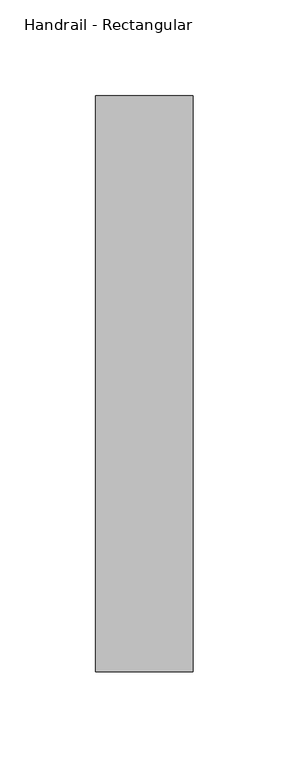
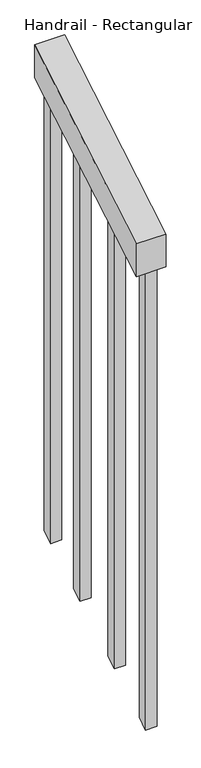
"""IFC4 building model written with IfcOpenShell, lengths in millimetres: railing geometry, Handrail - Rectangular."""

import ifcopenshell
import ifcopenshell.guid

model = None  # the IFC model being written
_history = None  # IfcOwnerHistory: only IFC2X3 demands one
_inside = {}  # id of a spatial element -> (the spatial element, [elements in it])
_under = {}  # id of a project, library or spatial element -> (it, [spatial elements below it])
_declared = {}  # id of a project -> (the project, [libraries it declares])
_typed = {}  # id of a type object -> (the type object, [elements of that type])
_made_of = {}  # id of a material, layer set ... -> (it, [elements and type objects made of it])


def new_model(schema):
    """Start an empty IFC model of exactly this schema.

    Asked for "IFC4X3", IfcOpenShell would pick the latest addendum, in which some entities
    have other attributes; the version numbers below select the first issue.
    IFC2X3 requires an IfcOwnerHistory on every rooted entity: one is made here for all.
    """
    global model, _history
    if schema == "IFC4X3":
        model = ifcopenshell.file(schema_version=(4, 3, 0, 0))
    else:
        model = ifcopenshell.file(schema=schema)
    _inside.clear()
    _under.clear()
    _declared.clear()
    _typed.clear()
    _made_of.clear()
    _history = None
    if model.schema == "IFC2X3":
        org = make("IfcOrganization", Name="unknown")
        user = make(
            "IfcPersonAndOrganization",
            ThePerson=make("IfcPerson", FamilyName="unknown"),
            TheOrganization=org,
        )
        app = make(
            "IfcApplication",
            ApplicationDeveloper=org,
            Version="unknown",
            ApplicationFullName="unknown",
            ApplicationIdentifier="unknown",
        )
        _history = make(
            "IfcOwnerHistory",
            OwningUser=user,
            OwningApplication=app,
            ChangeAction="ADDED",
            CreationDate=0,
        )
    return model


def make(cls, **values):
    """One entity of the class cls with the attributes given. An attribute that is None is left unset."""
    return model.create_entity(
        cls, **{name: value for name, value in values.items() if value is not None}
    )


def rooted(cls, **values):
    """An entity with a GlobalId (a new one), such as an element, a storey or a relation."""
    return make(cls, GlobalId=ifcopenshell.guid.new(), OwnerHistory=_history, **values)


def si_unit(unit_type, name, prefix=None):
    """IfcSIUnit, for example si_unit("LENGTHUNIT", "METRE", prefix="MILLI")."""
    return make("IfcSIUnit", UnitType=unit_type, Prefix=prefix, Name=name)


def assignment(units):
    """IfcUnitAssignment: the units of a project."""
    return None if units is None else make("IfcUnitAssignment", Units=units)


def point(xyz):
    """IfcCartesianPoint."""
    return None if xyz is None else make("IfcCartesianPoint", Coordinates=xyz)


def direction(xyz):
    """IfcDirection."""
    return None if xyz is None else make("IfcDirection", DirectionRatios=xyz)


def frame(location, z_axis=None, x_axis=None):
    """IfcAxis2Placement3D, a coordinate frame: its origin and axes. An axis left out is left unset."""
    return make(
        "IfcAxis2Placement3D",
        Location=point(location),
        Axis=direction(z_axis),
        RefDirection=direction(x_axis),
    )


def origin():
    """The frame at (0, 0, 0) with its axes left unset."""
    return frame((0.0, 0.0, 0.0))


def place(relative_to, where):
    """IfcLocalPlacement: puts the frame where relative to a parent placement (None: the world)."""
    return make(
        "IfcLocalPlacement", PlacementRelTo=relative_to, RelativePlacement=where
    )


def context(
    kind, dimensions, precision=None, world=None, true_north=None, identifier=None
):
    """IfcGeometricRepresentationContext, for example the 3D "Model" context."""
    return make(
        "IfcGeometricRepresentationContext",
        ContextIdentifier=identifier,
        ContextType=kind,
        CoordinateSpaceDimension=dimensions,
        Precision=precision,
        WorldCoordinateSystem=world,
        TrueNorth=true_north,
    )


def project(units=None, contexts=None):
    """IfcProject with its units and contexts."""
    return rooted(
        "IfcProject",
        Name="project",
        RepresentationContexts=contexts,
        UnitsInContext=assignment(units),
    )


def spatial(cls, under=None, at=None, **own):
    """A site, building, storey or space (cls), placed at a placement, below another one or the project."""
    s = rooted(cls, ObjectPlacement=at, **own)
    if under is not None:
        _under.setdefault(under.id(), (under, []))[1].append(s)
    return s


def polyline(points):
    """IfcPolyline through the points."""
    return make("IfcPolyline", Points=[point(p) for p in points])


def outline(outer, holes=None, kind="AREA"):
    """IfcArbitraryClosedProfileDef: a profile drawn as a closed curve; with holes, ...WithVoids."""
    if holes is None:
        return make("IfcArbitraryClosedProfileDef", ProfileType=kind, OuterCurve=outer)
    return make(
        "IfcArbitraryProfileDefWithVoids",
        ProfileType=kind,
        OuterCurve=outer,
        InnerCurves=holes,
    )


def extrude(swept, where, along, depth):
    """IfcExtrudedAreaSolid: the profile swept, set in the frame where, extruded along a direction by depth."""
    return make(
        "IfcExtrudedAreaSolid",
        SweptArea=swept,
        Position=where,
        ExtrudedDirection=direction(along),
        Depth=depth,
    )


def shape(context_of_items, identifier, shape_type, items):
    """IfcShapeRepresentation: the items that make up one representation, for example the "Body"."""
    return make(
        "IfcShapeRepresentation",
        ContextOfItems=context_of_items,
        RepresentationIdentifier=identifier,
        RepresentationType=shape_type,
        Items=items,
    )


def source(mapping_origin, context_of_items, identifier, shape_type, items):
    """IfcRepresentationMap: a shape defined once, which mapped items show again and again."""
    return make(
        "IfcRepresentationMap",
        MappingOrigin=mapping_origin,
        MappedRepresentation=shape(context_of_items, identifier, shape_type, items),
    )


def transform(
    local_origin,
    x_axis=None,
    y_axis=None,
    z_axis=None,
    scale=None,
    scale2=None,
    scale3=None,
    uniform=True,
):
    """IfcCartesianTransformationOperator3D, or its non-uniform kind. x_axis, y_axis, z_axis: its Axis1, 2, 3."""
    if uniform:
        return make(
            "IfcCartesianTransformationOperator3D",
            Axis1=direction(x_axis),
            Axis2=direction(y_axis),
            LocalOrigin=point(local_origin),
            Scale=scale,
            Axis3=direction(z_axis),
        )
    return make(
        "IfcCartesianTransformationOperator3DnonUniform",
        Axis1=direction(x_axis),
        Axis2=direction(y_axis),
        LocalOrigin=point(local_origin),
        Scale=scale,
        Axis3=direction(z_axis),
        Scale2=scale2,
        Scale3=scale3,
    )


def mapped(mapping_source, mapping_target):
    """IfcMappedItem: shows the shape of a source again, moved by a transform."""
    return make(
        "IfcMappedItem", MappingSource=mapping_source, MappingTarget=mapping_target
    )


def made_of(thing, what):
    """Note that an element or type object is made of a material, layer set ...; save() writes the relation."""
    if what is not None:
        _made_of.setdefault(what.id(), (what, []))[1].append(thing)
    return thing


def element(
    cls,
    number,
    at=None,
    inside=None,
    cuts=None,
    type_object=None,
    material=None,
    context=None,
    identifier="Body",
    shape_type=None,
    held_by="IfcProductDefinitionShape",
    body=None,
    shapes=None,
    **own,
):
    """One element of the class cls, such as IfcWall. Its Tag is "e" and its number.

    at: its placement. inside: the storey or other place that contains it. cuts: it is an
    opening in that element (IfcRelVoidsElement). A single representation is given by context,
    identifier, shape_type and body (its items); several are given by shapes. held_by: the class
    of the entity that holds the representations. save() writes the other relations.
    """
    e = rooted(cls, Tag="e%d" % number, ObjectPlacement=at, **own)
    if body is not None:
        shapes = [shape(context, identifier, shape_type, body)]
    if shapes is not None:
        e.Representation = make(held_by, Representations=shapes)
    if inside is not None:
        _inside.setdefault(inside.id(), (inside, []))[1].append(e)
    if cuts is not None:
        rooted(
            "IfcRelVoidsElement", RelatingBuildingElement=cuts, RelatedOpeningElement=e
        )
    if type_object is not None:
        _typed.setdefault(type_object.id(), (type_object, []))[1].append(e)
    return made_of(e, material)


def aggregate(whole, parts):
    """IfcRelAggregates: a whole, such as a stair, and the parts it consists of."""
    return rooted("IfcRelAggregates", RelatingObject=whole, RelatedObjects=parts)


def save(model, path):
    """Write the relations noted so far, then the file.

    IfcRelAggregates (storeys below a building ...), IfcRelContainedInSpatialStructure (elements
    in a storey), IfcRelDefinesByType, IfcRelAssociatesMaterial and IfcRelDeclares: one each for
    every whole, place, type object, material and project.
    """
    for whole, parts in _under.values():
        aggregate(whole, parts)
    for where, things in _inside.values():
        rooted(
            "IfcRelContainedInSpatialStructure",
            RelatedElements=things,
            RelatingStructure=where,
        )
    for kind, things in _typed.values():
        rooted("IfcRelDefinesByType", RelatedObjects=things, RelatingType=kind)
    for what, things in _made_of.values():
        rooted("IfcRelAssociatesMaterial", RelatedObjects=things, RelatingMaterial=what)
    for by, libraries in _declared.values():
        rooted("IfcRelDeclares", RelatingContext=by, RelatedDefinitions=libraries)
    model.write(path)


def handrail_rectangular_bc91341e(model_context):
    return source(origin(), model_context, "Body", "SweptSolid", [
        extrude(outline(polyline([(1959.3790009, 731.9333757), (1959.3790009, 790.8705882), (2259.3790009, 967.3411765), (2259.3790009, 908.403964), (1959.3790009, 731.9333757)])), frame((-12849.8909741, 0.0, 0.0), z_axis=(1.0, 0.0, 0.0), x_axis=(0.0, 1.0, 0.0)), (0.0, 0.0, 1.0), 50.8),
        extrude(outline(polyline([(2172.1040009, 857.0657287), (2172.1040009, 35.6076417), (2153.0540009, 24.4017594), (2153.0540009, 845.8598463), (2172.1040009, 857.0657287)])), frame((-12834.0159741, 0.0, 0.0), z_axis=(1.0, 0.0, 0.0), x_axis=(0.0, 1.0, 0.0)), (0.0, 0.0, 1.0), 19.05),
        extrude(outline(polyline([(2070.5040009, 797.3010228), (2070.5040009, -24.1570642), (2051.4540009, -35.3629465), (2051.4540009, 786.0951404), (2070.5040009, 797.3010228)])), frame((-12834.0159741, 0.0, 0.0), z_axis=(1.0, 0.0, 0.0), x_axis=(0.0, 1.0, 0.0)), (0.0, 0.0, 1.0), 19.05),
        extrude(outline(polyline([(2259.3790009, 908.403964), (2259.3790009, 86.945877), (2240.3290009, 75.7399947), (2240.3290009, 897.1980816), (2259.3790009, 908.403964)])), frame((-12834.0159741, 0.0, 0.0), z_axis=(1.0, 0.0, 0.0), x_axis=(0.0, 1.0, 0.0)), (0.0, 0.0, 1.0), 19.05),
        extrude(outline(polyline([(1978.4290009, 743.1392581), (1978.4290009, -78.3188289), (1959.3790009, -89.5247112), (1959.3790009, 731.9333757), (1978.4290009, 743.1392581)])), frame((-12834.0159741, 0.0, 0.0), z_axis=(1.0, 0.0, 0.0), x_axis=(0.0, 1.0, 0.0)), (0.0, 0.0, 1.0), 19.05),
    ])


if __name__ == "__main__":
    model = new_model("IFC4")
    model_context = context("Model", 3, world=origin())
    ifc_project = project(units=[si_unit("LENGTHUNIT", "METRE", prefix="MILLI")], contexts=[model_context])
    site = spatial("IfcSite", under=ifc_project)
    building = spatial("IfcBuilding", under=site)
    placement = place(None, origin())
    handrail_rectangular_shape = handrail_rectangular_bc91341e(model_context)
    element("IfcRailing", 1, ObjectType="Handrail - Rectangular", at=placement, inside=building, context=model_context, shape_type="MappedRepresentation", body=[
        mapped(handrail_rectangular_shape, transform((0.0, 0.0, 0.0), x_axis=(1.0, 0.0, 0.0), y_axis=(0.0, 1.0, 0.0), z_axis=(0.0, 0.0, 1.0))),
    ])
    save(model, "model.ifc")
